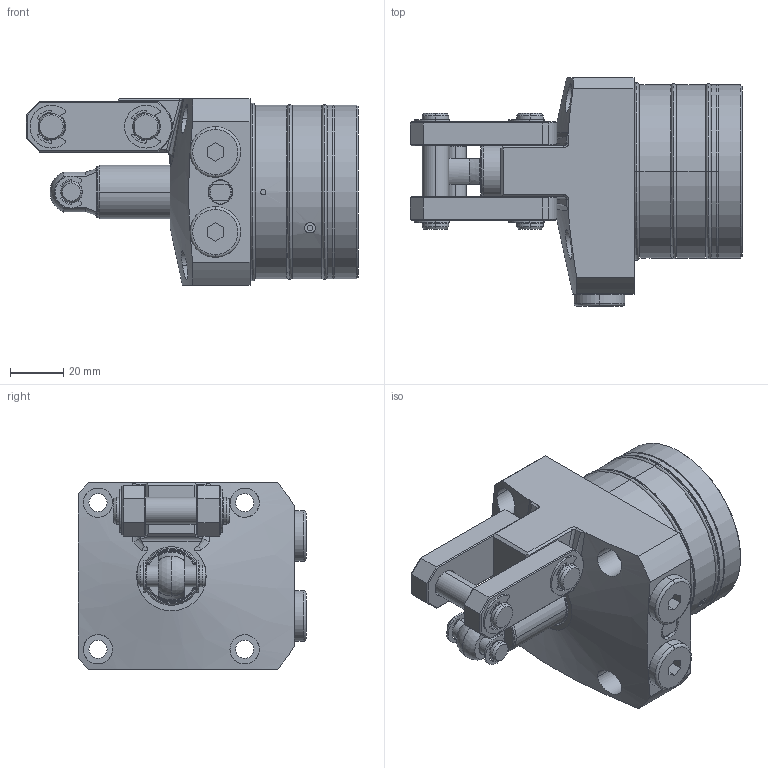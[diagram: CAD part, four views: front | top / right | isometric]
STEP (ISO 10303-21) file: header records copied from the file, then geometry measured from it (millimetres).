
FILE_DESCRIPTION(/* description */ (''),/* implementation_level */ '2;1');
FILE_NAME(/* name */ 'KTPW65-RE.stp',/* time_stamp */ '2022-11-19T16:06:11+08:00',/* author */ (''),/* organization */ (''),/* preprocessor_version */ 'ST-DEVELOPER v16.7',/* originating_system */ 'SIEMENS PLM Software NX 12.0',/* authorisation */ '');
FILE_SCHEMA (('AP203_CONFIGURATION_CONTROLLED_3D_DESIGN_OF_MECHANICAL_PARTS_AND_ASSEMBLIES_MIM_LF { 1 0 10303 403 2 1 2}'));
Length unit declared in the file: millimetre
Products named in the file (11): KTPW65-RE-02; KTPW65-RE-09; KTPW65-RE-05; KTPW65-RE-01; KTPW65-RE-010; KTPW65-RE-04; KTPW65-RE-08; KTPW65-RE-07; KTPW65-RE-03; KTPW65-RE-06; LKW0651-CRE_step
Assembly tree (19 placements, depth 2):
  LKW0651-CRE_step
    KTPW65-RE-06  x4
    KTPW65-RE-03
    KTPW65-RE-07  x2
    KTPW65-RE-08  x2
    KTPW65-RE-04  x2
    KTPW65-RE-010  x3
    KTPW65-RE-01
    KTPW65-RE-05  x2
    KTPW65-RE-09
    KTPW65-RE-02
Bounding box: 124.5 x 85.5 x 70 mm (x, y, z)
Volume: 309698.1 mm3; surface area: 63918.7 mm2
Topology: 22 solids, 22 shells, 689 faces, 1593 edges, 986 vertices
Faces by surface type: cylinder 266, plane 205, torus 128, cone 78, bspline 10, sphere 2
Full cylindrical faces by diameter (mm): 65 x1
Entity records: 14497 total; most frequent: CARTESIAN_POINT 3169, DIRECTION 2255, ORIENTED_EDGE 1906, EDGE_CURVE 953, AXIS2_PLACEMENT_3D 944, VERTEX_POINT 586, CIRCLE 510, EDGE_LOOP 479
